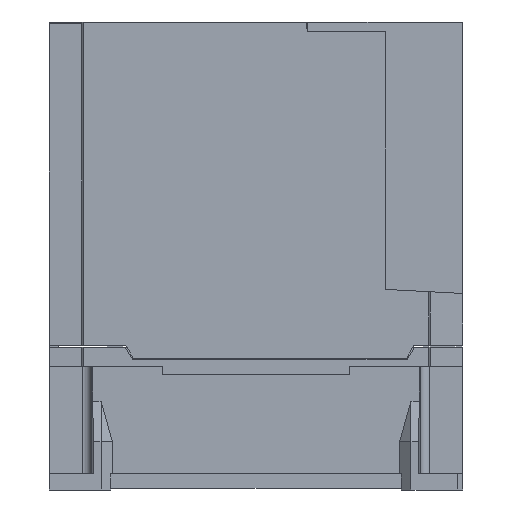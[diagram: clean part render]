
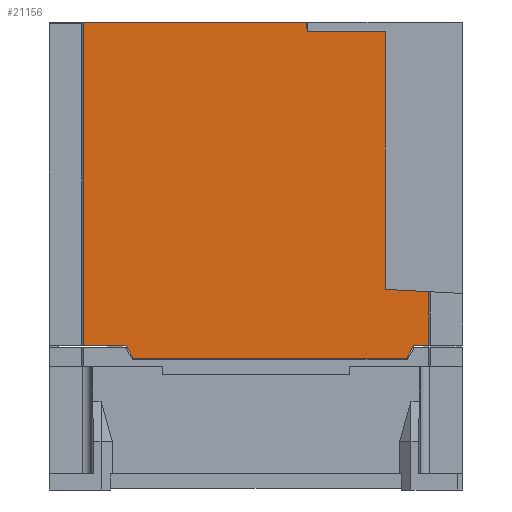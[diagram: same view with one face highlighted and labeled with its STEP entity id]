
A CAD part, left-side view. The second image highlights one B-rep face of the part: STEP entity #21156.
In plain terms, the highlighted planar face has unit normal (-1, 0, 0).
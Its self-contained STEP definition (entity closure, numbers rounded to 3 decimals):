
#4259=DIRECTION('',(0.,-1.,0.));
#4260=VECTOR('',#4259,4.54);
#4261=CARTESIAN_POINT('',(-54.,15.091,0.5));
#4262=LINE('',#4261,#4260);
#4263=DIRECTION('',(0.,-0.5,0.866));
#4264=VECTOR('',#4263,4.619);
#4265=CARTESIAN_POINT('',(-54.,17.4,-3.5));
#4266=LINE('',#4265,#4264);
#4267=DIRECTION('',(0.,-1.,0.));
#4268=VECTOR('',#4267,84.6);
#4269=CARTESIAN_POINT('',(-54.,102.,-3.5));
#4270=LINE('',#4269,#4268);
#4271=DIRECTION('',(0.,-0.5,-0.866));
#4272=VECTOR('',#4271,4.619);
#4273=CARTESIAN_POINT('',(-54.,104.309,0.5));
#4274=LINE('',#4273,#4272);
#4275=DIRECTION('',(0.,-1.,0.));
#4276=VECTOR('',#4275,13.14);
#4277=CARTESIAN_POINT('',(-54.,117.45,0.5));
#4278=LINE('',#4277,#4276);
#4279=DIRECTION('',(0.,0.,1.));
#4280=VECTOR('',#4279,100.2);
#4281=CARTESIAN_POINT('',(-54.,117.45,0.5));
#4282=LINE('',#4281,#4280);
#4283=DIRECTION('',(0.,-0.052,-0.999));
#4284=VECTOR('',#4283,3.004);
#4285=CARTESIAN_POINT('',(-54.,48.32,100.7));
#4286=LINE('',#4285,#4284);
#4287=DIRECTION('',(0.,1.,0.));
#4288=VECTOR('',#4287,24.162);
#4289=CARTESIAN_POINT('',(-54.,24.,97.7));
#4290=LINE('',#4289,#4288);
#4291=DIRECTION('',(0.,0.999,0.052));
#4292=VECTOR('',#4291,13.468);
#4293=CARTESIAN_POINT('',(-54.,10.55,17.153));
#4294=LINE('',#4293,#4292);
#4295=DIRECTION('',(0.,0.,1.));
#4296=VECTOR('',#4295,16.653);
#4297=CARTESIAN_POINT('',(-54.,10.55,0.5));
#4298=LINE('',#4297,#4296);
#4439=DIRECTION('',(0.,0.,1.));
#4440=VECTOR('',#4439,79.842);
#4441=CARTESIAN_POINT('',(-54.,24.,17.858));
#4442=LINE('',#4441,#4440);
#6345=DIRECTION('',(0.,-1.,0.));
#6346=VECTOR('',#6345,69.13);
#6347=CARTESIAN_POINT('',(-54.,117.45,100.7));
#6348=LINE('',#6347,#6346);
#11485=CARTESIAN_POINT('',(-54.,102.,-3.5));
#11486=CARTESIAN_POINT('',(-54.,17.4,-3.5));
#11487=VERTEX_POINT('',#11485);
#11488=VERTEX_POINT('',#11486);
#11497=CARTESIAN_POINT('',(-54.,15.091,0.5));
#11498=VERTEX_POINT('',#11497);
#11499=CARTESIAN_POINT('',(-54.,104.309,0.5));
#11500=VERTEX_POINT('',#11499);
#11521=CARTESIAN_POINT('',(-54.,24.,17.858));
#11522=VERTEX_POINT('',#11521);
#11577=CARTESIAN_POINT('',(-54.,117.45,0.5));
#11578=VERTEX_POINT('',#11577);
#11579=CARTESIAN_POINT('',(-54.,10.55,0.5));
#11580=VERTEX_POINT('',#11579);
#11814=CARTESIAN_POINT('',(-54.,10.55,17.153));
#11815=VERTEX_POINT('',#11814);
#11934=CARTESIAN_POINT('',(-54.,117.45,100.7));
#11935=CARTESIAN_POINT('',(-54.,48.32,100.7));
#11936=VERTEX_POINT('',#11934);
#11937=VERTEX_POINT('',#11935);
#12058=CARTESIAN_POINT('',(-54.,24.,97.7));
#12060=VERTEX_POINT('',#12058);
#12062=CARTESIAN_POINT('',(-54.,48.162,97.7));
#12063=VERTEX_POINT('',#12062);
#21129=CARTESIAN_POINT('',(-54.,128.,0.));
#21130=DIRECTION('',(-1.,0.,0.));
#21131=DIRECTION('',(0.,-1.,0.));
#21132=AXIS2_PLACEMENT_3D('',#21129,#21130,#21131);
#21133=PLANE('',#21132);
#21134=ORIENTED_EDGE('',*,*,#19623,.F.);
#21136=ORIENTED_EDGE('',*,*,#21135,.F.);
#21138=ORIENTED_EDGE('',*,*,#21137,.F.);
#21139=ORIENTED_EDGE('',*,*,#21115,.F.);
#21140=ORIENTED_EDGE('',*,*,#19692,.F.);
#21142=ORIENTED_EDGE('',*,*,#21141,.T.);
#21144=ORIENTED_EDGE('',*,*,#21143,.T.);
#21146=ORIENTED_EDGE('',*,*,#21145,.T.);
#21148=ORIENTED_EDGE('',*,*,#21147,.F.);
#21150=ORIENTED_EDGE('',*,*,#21149,.F.);
#21151=ORIENTED_EDGE('',*,*,#20268,.F.);
#21153=ORIENTED_EDGE('',*,*,#21152,.F.);
#21154=EDGE_LOOP('',(#21134,#21136,#21138,#21139,#21140,#21142,#21144,#21146,
#21148,#21150,#21151,#21153));
#21155=FACE_OUTER_BOUND('',#21154,.F.);
#21156=ADVANCED_FACE('',(#21155),#21133,.T.);
#19623=EDGE_CURVE('',#11498,#11580,#4262,.T.);
#19692=EDGE_CURVE('',#11578,#11500,#4278,.T.);
#20268=EDGE_CURVE('',#11815,#11522,#4294,.T.);
#21115=EDGE_CURVE('',#11500,#11487,#4274,.T.);
#21135=EDGE_CURVE('',#11488,#11498,#4266,.T.);
#21137=EDGE_CURVE('',#11487,#11488,#4270,.T.);
#21141=EDGE_CURVE('',#11578,#11936,#4282,.T.);
#21143=EDGE_CURVE('',#11936,#11937,#6348,.T.);
#21145=EDGE_CURVE('',#11937,#12063,#4286,.T.);
#21147=EDGE_CURVE('',#12060,#12063,#4290,.T.);
#21149=EDGE_CURVE('',#11522,#12060,#4442,.T.);
#21152=EDGE_CURVE('',#11580,#11815,#4298,.T.);
